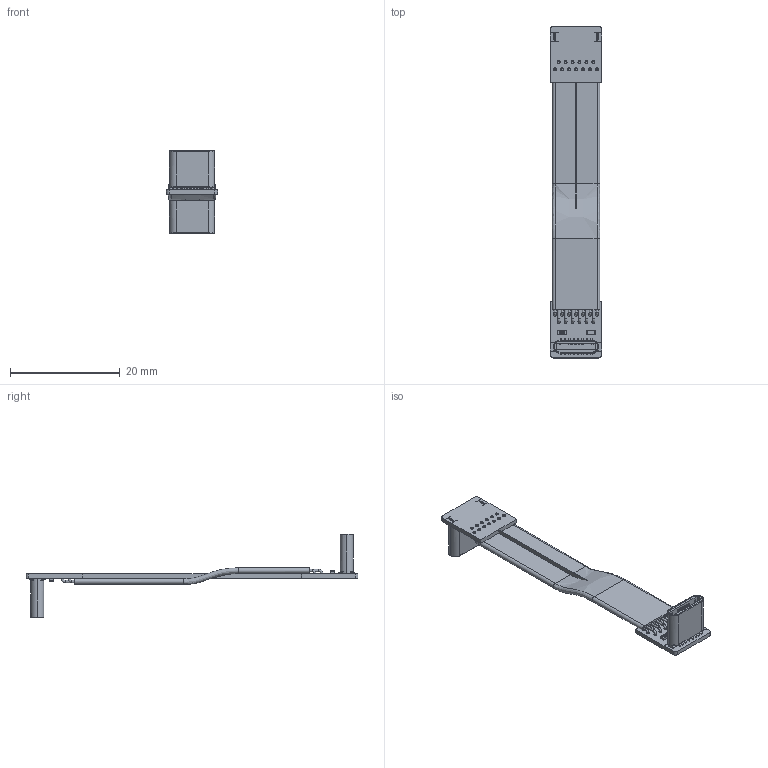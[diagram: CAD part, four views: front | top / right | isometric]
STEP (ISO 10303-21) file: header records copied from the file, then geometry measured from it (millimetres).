
FILE_DESCRIPTION(('Open CASCADE Model'),'2;1');
FILE_NAME('Open CASCADE Shape Model','2022-04-19T21:52:58',('Author'),( 'Open CASCADE'),'Open CASCADE STEP processor 6.8','Open CASCADE 6.8' ,'Unknown');
FILE_SCHEMA(('AUTOMOTIVE_DESIGN { 1 0 10303 214 1 1 1 1 }'));
Length unit declared in the file: millimetre
Products named in the file (101): PCB; Board; Open CASCADE STEP translator 6.8 1.1.1; Open CASCADE STEP translator 6.8 1.2; 0603_RES; Capsule; Encapsulation; TopCover; Designator11_1; T2D-4_20211026; Open CASCADE STEP translator 6.8 1.4; C0603_060; _1; Designator11; Free-Models; cable13-US1A
Assembly tree (162 placements, depth 4):
  PCB
    Board
      Open CASCADE STEP translator 6.8 1.1.1
    Open CASCADE STEP translator 6.8 1.2
      0603_RES
        Capsule
        Encapsulation  x2
        TopCover
    Designator11_1
      T2D-4_20211026
      T2D-4_20211026
      T2D-4_20211026
      T2D-4_20211026
      T2D-4_20211026
      T2D-4_20211026
      T2D-4_20211026
      T2D-4_20211026
      T2D-4_20211026
      T2D-4_20211026
      T2D-4_20211026
      T2D-4_20211026
      T2D-4_20211026
      T2D-4_20211026
      T2D-4_20211026
      T2D-4_20211026
      T2D-4_20211026
      T2D-4_20211026
      T2D-4_20211026
      T2D-4_20211026
      T2D-4_20211026
      T2D-4_20211026
      T2D-4_20211026
      T2D-4_20211026
      T2D-4_20211026
      T2D-4_20211026
      T2D-4_20211026
      T2D-4_20211026
      T2D-4_20211026
      T2D-4_20211026
      T2D-4_20211026
      T2D-4_20211026
      T2D-4_20211026
      T2D-4_20211026
      T2D-4_20211026
      T2D-4_20211026
      T2D-4_20211026
      T2D-4_20211026
      T2D-4_20211026
      T2D-4_20211026
      T2D-4_20211026
      T2D-4_20211026
      T2D-4_20211026
      T2D-4_20211026
      T2D-4_20211026
      T2D-4_20211026
      T2D-4_20211026
      T2D-4_20211026
      T2D-4_20211026
      T2D-4_20211026
      T2D-4_20211026
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Bounding box: 9.33 x 60.58 x 15.2 mm (x, y, z)
Volume: 631.6 mm3; surface area: 2909.7 mm2
Topology: 156 solids, 156 shells, 1667 faces, 3876 edges, 2513 vertices
Faces by surface type: plane 1083, cylinder 351, bspline 157, torus 38, extrusion 22, sphere 16
Full cylindrical faces by diameter (mm): 0.4 x59, 0.55 x26
Entity records: 38066 total; most frequent: CARTESIAN_POINT 7744, DIRECTION 4458, ORIENTED_EDGE 4356, EDGE_CURVE 2170, AXIS2_PLACEMENT_3D 1530, VERTEX_POINT 1399, VECTOR 1398, LINE 1384
